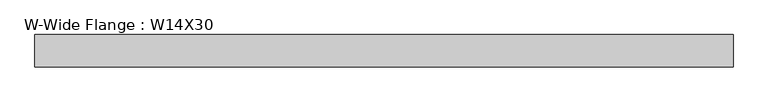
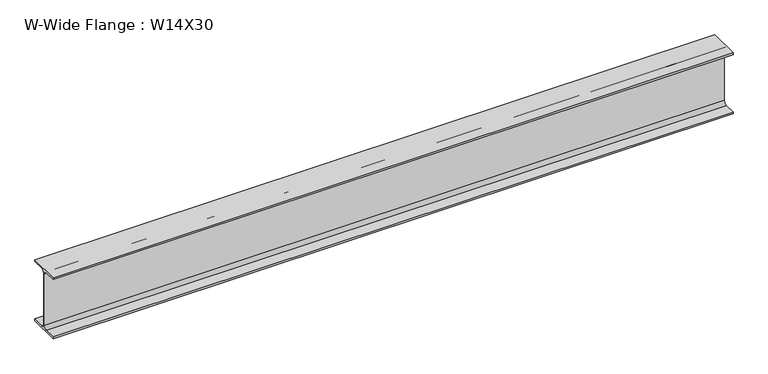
"""IFC4 building model written with IfcOpenShell, lengths in millimetres: beam geometry, W-Wide Flange : W14X30."""

from ifc_helpers import new_model, si_unit, point, frame, frame_2d, origin, place, context, project, spatial, polyline, circle_curve, trimmed, segment, composite_curve, outline, extrude, source, transform, mapped, element, save


def w_wide_flange_w14x30_385d032e(model_context):
    return source(origin(), model_context, "Body", "SweptSolid", [
        extrude(outline(composite_curve([segment(polyline([(85.4769531, -165.9433594), (85.4769531, -175.7660156), (-85.4769531, -175.7660156), (-85.4769531, -165.9433594), (-22.1753906, -165.9433594)]), True, "CONTINUOUS"), segment(trimmed(circle_curve(frame_2d((-22.1753906, -147.1910156)), 18.7523438), [point((-22.1753906, -165.9433594))], [point((-3.4230469, -147.1910156))], True, "CARTESIAN"), True, "CONTINUOUS"), segment(polyline([(-3.4230469, -147.1910156), (-3.4230469, 147.1910156)]), True, "CONTINUOUS"), segment(trimmed(circle_curve(frame_2d((-22.1753906, 147.1910156)), 18.7523438), [point((-3.4230469, 147.1910156))], [point((-22.1753906, 165.9433594))], True, "CARTESIAN"), True, "CONTINUOUS"), segment(polyline([(-22.1753906, 165.9433594), (-85.4769531, 165.9433594), (-85.4769531, 175.7660156), (85.4769531, 175.7660156), (85.4769531, 165.9433594), (22.1753906, 165.9433594)]), True, "CONTINUOUS"), segment(trimmed(circle_curve(frame_2d((22.1753906, 147.1910156)), 18.7523438), [point((22.1753906, 165.9433594))], [point((3.4230469, 147.1910156))], True, "CARTESIAN"), True, "CONTINUOUS"), segment(polyline([(3.4230469, 147.1910156), (3.4230469, -147.1910156)]), True, "CONTINUOUS"), segment(trimmed(circle_curve(frame_2d((22.1753906, -147.1910156)), 18.7523438), [point((3.4230469, -147.1910156))], [point((22.1753906, -165.9433594))], True, "CARTESIAN"), True, "CONTINUOUS"), segment(polyline([(22.1753906, -165.9433594), (85.4769531, -165.9433594)]), True, "CONTINUOUS")], self_intersect=False)), frame((-1863.2895872, 0.0, 0.0), z_axis=(1.0, 0.0, 0.0), x_axis=(0.0, 1.0, 0.0)), (0.0, 0.0, 1.0), 3704.0923136),
    ])


if __name__ == "__main__":
    model = new_model("IFC4")
    model_context = context("Model", 3, world=origin())
    ifc_project = project(units=[si_unit("LENGTHUNIT", "METRE", prefix="MILLI")], contexts=[model_context])
    site = spatial("IfcSite", under=ifc_project)
    building = spatial("IfcBuilding", under=site)
    placement = place(None, origin())
    w_wide_flange_w14x30_shape = w_wide_flange_w14x30_385d032e(model_context)
    element("IfcBeam", 1, ObjectType="W-Wide Flange : W14X30", at=placement, inside=building, context=model_context, shape_type="MappedRepresentation", body=[
        mapped(w_wide_flange_w14x30_shape, transform((0.0, 0.0, 0.0), x_axis=(1.0, 0.0, 0.0), y_axis=(0.0, 1.0, 0.0), z_axis=(0.0, 0.0, 1.0))),
    ])
    save(model, "model.ifc")
